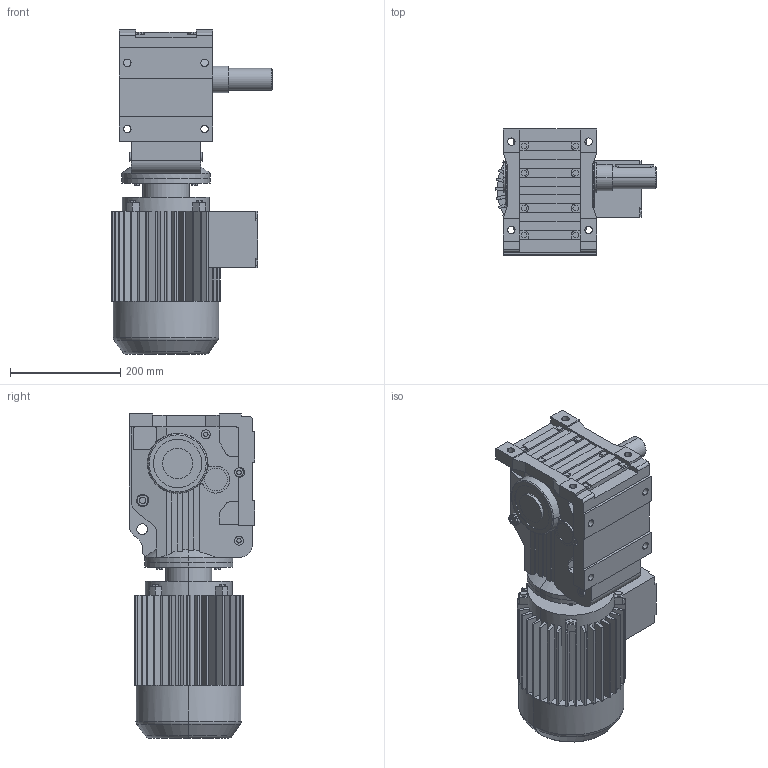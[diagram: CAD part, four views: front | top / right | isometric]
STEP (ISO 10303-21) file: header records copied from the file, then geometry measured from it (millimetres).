
FILE_DESCRIPTION(('Open CASCADE Model'),'2;1');
FILE_NAME('Open CASCADE Shape Model','2021-06-10T10:33:21',('Author'),( 'Open CASCADE'),'Open CASCADE STEP processor 6.3','Open CASCADE 6.3' ,'Unknown');
FILE_SCHEMA(('AUTOMOTIVE_DESIGN_CC2 { 1 2 10303 214 -1 1 5 4 }'));
Length unit declared in the file: millimetre
Products named in the file (4): 1_K67DV100M-A; K37‵157_67.step; 萇儂_160-DV100M-319-404-197-166.step; す瑩妗陑粣K_67.step
Assembly tree (3 placements, depth 2):
  1_K67DV100M-A
    K37‵157_67.step
    萇儂_160-DV100M-319-404-197-166.step
    す瑩妗陑粣K_67.step
Bounding box: 291.5 x 228 x 588 mm (x, y, z)
Volume: 15616489.2 mm3; surface area: 863584.6 mm2
Topology: 3 solids, 3 shells, 839 faces, 2210 edges, 1434 vertices
Faces by surface type: plane 584, cylinder 231, cone 16, torus 8
Entity records: 57738 total; most frequent: CARTESIAN_POINT 15729, DIRECTION 7244, ORIENTED_EDGE 4416, PCURVE 4416, DEFINITIONAL_REPRESENTATION 4416, LINE 3943, VECTOR 3943, EDGE_CURVE 2208
